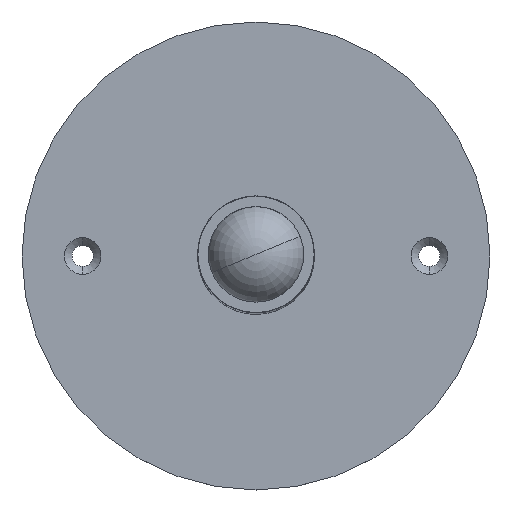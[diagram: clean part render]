
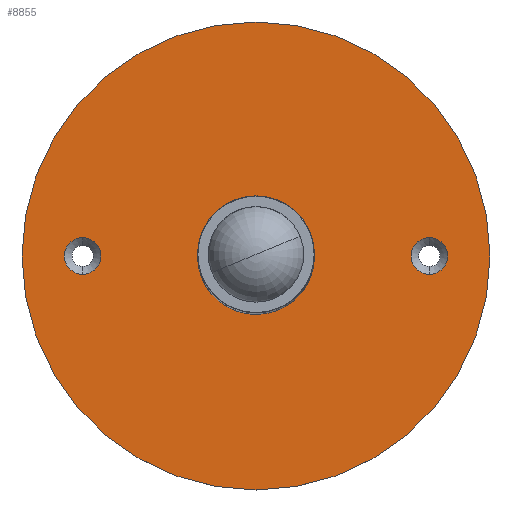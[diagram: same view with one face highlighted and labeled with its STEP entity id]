
A CAD part, top view. The second image highlights one B-rep face of the part: STEP entity #8855.
In plain terms, the highlighted planar face has unit normal (0, 0, 1) as drawn and (0, -1, 0) by its records, which use the part's own axes.
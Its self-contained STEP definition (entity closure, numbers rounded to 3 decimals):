
#510 = AXIS2_PLACEMENT_3D ( 'NONE', #840, #10138, #2656 ) ;
#642 = CARTESIAN_POINT ( 'NONE',  ( 0., -1., 0. ) ) ;
#783 = EDGE_CURVE ( 'NONE', #11089, #1516, #9873, .T. ) ;
#840 = CARTESIAN_POINT ( 'NONE',  ( 0., -1., 0. ) ) ;
#1018 = CARTESIAN_POINT ( 'NONE',  ( -44.45, -1., -4.7 ) ) ;
#1292 = EDGE_CURVE ( 'NONE', #7026, #3312, #11433, .T. ) ;
#1377 = AXIS2_PLACEMENT_3D ( 'NONE', #12110, #7953, #2563 ) ;
#1383 = DIRECTION ( 'NONE',  ( 0., 0., -1. ) ) ;
#1411 = CARTESIAN_POINT ( 'NONE',  ( 44.45, -1., 4.7 ) ) ;
#1516 = VERTEX_POINT ( 'NONE', #11976 ) ;
#1818 = VERTEX_POINT ( 'NONE', #1018 ) ;
#1884 = CARTESIAN_POINT ( 'NONE',  ( 0., -1., 60. ) ) ;
#1983 = VERTEX_POINT ( 'NONE', #1411 ) ;
#2004 = CIRCLE ( 'NONE', #3950, 4.7 ) ;
#2072 = AXIS2_PLACEMENT_3D ( 'NONE', #642, #6100, #13496 ) ;
#2367 = DIRECTION ( 'NONE',  ( 0., -1., 0. ) ) ;
#2563 = DIRECTION ( 'NONE',  ( 0., 0., -1. ) ) ;
#2656 = DIRECTION ( 'NONE',  ( 0., 0., -1. ) ) ;
#2836 = FACE_BOUND ( 'NONE', #4013, .T. ) ;
#2889 = EDGE_LOOP ( 'NONE', ( #12222, #9816 ) ) ;
#3136 = CIRCLE ( 'NONE', #8700, 4.7 ) ;
#3139 = CIRCLE ( 'NONE', #8054, 4.7 ) ;
#3203 = EDGE_CURVE ( 'NONE', #1818, #5268, #3136, .T. ) ;
#3265 = DIRECTION ( 'NONE',  ( 0., -1., 0. ) ) ;
#3312 = VERTEX_POINT ( 'NONE', #13161 ) ;
#3789 = ORIENTED_EDGE ( 'NONE', *, *, #9624, .F. ) ;
#3950 = AXIS2_PLACEMENT_3D ( 'NONE', #13112, #6705, #1383 ) ;
#3952 = DIRECTION ( 'NONE',  ( 0., 0., -1. ) ) ;
#4013 = EDGE_LOOP ( 'NONE', ( #4535, #11362 ) ) ;
#4275 = VERTEX_POINT ( 'NONE', #5623 ) ;
#4535 = ORIENTED_EDGE ( 'NONE', *, *, #12629, .T. ) ;
#4861 = ORIENTED_EDGE ( 'NONE', *, *, #7107, .F. ) ;
#5268 = VERTEX_POINT ( 'NONE', #13587 ) ;
#5623 = CARTESIAN_POINT ( 'NONE',  ( 44.45, -1., -4.7 ) ) ;
#6100 = DIRECTION ( 'NONE',  ( 0., 1., 0. ) ) ;
#6705 = DIRECTION ( 'NONE',  ( 0., -1., 0. ) ) ;
#6972 = DIRECTION ( 'NONE',  ( 0., 0., -1. ) ) ;
#7026 = VERTEX_POINT ( 'NONE', #9461 ) ;
#7030 = FACE_BOUND ( 'NONE', #2889, .T. ) ;
#7097 = DIRECTION ( 'NONE',  ( 0., -1., 0. ) ) ;
#7107 = EDGE_CURVE ( 'NONE', #1983, #4275, #3139, .T. ) ;
#7119 = ORIENTED_EDGE ( 'NONE', *, *, #10115, .F. ) ;
#7402 = AXIS2_PLACEMENT_3D ( 'NONE', #13363, #7097, #11336 ) ;
#7530 = DIRECTION ( 'NONE',  ( 0., 0., -1. ) ) ;
#7662 = CARTESIAN_POINT ( 'NONE',  ( -44.45, -1., 0. ) ) ;
#7942 = PLANE ( 'NONE',  #7402 ) ;
#7953 = DIRECTION ( 'NONE',  ( 0., 1., 0. ) ) ;
#8054 = AXIS2_PLACEMENT_3D ( 'NONE', #12655, #13506, #3952 ) ;
#8071 = FACE_BOUND ( 'NONE', #9798, .T. ) ;
#8095 = EDGE_LOOP ( 'NONE', ( #10002, #7119 ) ) ;
#8199 = CIRCLE ( 'NONE', #13531, 4.7 ) ;
#8700 = AXIS2_PLACEMENT_3D ( 'NONE', #7662, #3265, #7530 ) ;
#8792 = AXIS2_PLACEMENT_3D ( 'NONE', #11219, #12186, #6972 ) ;
#8855 = ADVANCED_FACE ( 'NONE', ( #8071, #7030, #2836, #9120 ), #7942, .T. ) ;
#8941 = DIRECTION ( 'NONE',  ( 0., 0., -1. ) ) ;
#9120 = FACE_OUTER_BOUND ( 'NONE', #8095, .T. ) ;
#9461 = CARTESIAN_POINT ( 'NONE',  ( 0., -1., -5.05 ) ) ;
#9624 = EDGE_CURVE ( 'NONE', #4275, #1983, #2004, .T. ) ;
#9741 = EDGE_CURVE ( 'NONE', #5268, #1818, #8199, .T. ) ;
#9798 = EDGE_LOOP ( 'NONE', ( #3789, #4861 ) ) ;
#9816 = ORIENTED_EDGE ( 'NONE', *, *, #9741, .F. ) ;
#9868 = CIRCLE ( 'NONE', #1377, 60. ) ;
#9873 = CIRCLE ( 'NONE', #2072, 60. ) ;
#10002 = ORIENTED_EDGE ( 'NONE', *, *, #783, .F. ) ;
#10115 = EDGE_CURVE ( 'NONE', #1516, #11089, #9868, .T. ) ;
#10138 = DIRECTION ( 'NONE',  ( 0., 1., 0. ) ) ;
#11089 = VERTEX_POINT ( 'NONE', #1884 ) ;
#11219 = CARTESIAN_POINT ( 'NONE',  ( 0., -1., 0. ) ) ;
#11336 = DIRECTION ( 'NONE',  ( 0., 0., -1. ) ) ;
#11362 = ORIENTED_EDGE ( 'NONE', *, *, #1292, .T. ) ;
#11433 = CIRCLE ( 'NONE', #510, 5.05 ) ;
#11976 = CARTESIAN_POINT ( 'NONE',  ( 0., -1., -60. ) ) ;
#12110 = CARTESIAN_POINT ( 'NONE',  ( 0., -1., 0. ) ) ;
#12186 = DIRECTION ( 'NONE',  ( 0., 1., 0. ) ) ;
#12222 = ORIENTED_EDGE ( 'NONE', *, *, #3203, .F. ) ;
#12629 = EDGE_CURVE ( 'NONE', #3312, #7026, #13242, .T. ) ;
#12655 = CARTESIAN_POINT ( 'NONE',  ( 44.45, -1., 0. ) ) ;
#13112 = CARTESIAN_POINT ( 'NONE',  ( 44.45, -1., 0. ) ) ;
#13161 = CARTESIAN_POINT ( 'NONE',  ( 0., -1., 5.05 ) ) ;
#13242 = CIRCLE ( 'NONE', #8792, 5.05 ) ;
#13258 = CARTESIAN_POINT ( 'NONE',  ( -44.45, -1., 0. ) ) ;
#13363 = CARTESIAN_POINT ( 'NONE',  ( 0., -1., 0. ) ) ;
#13496 = DIRECTION ( 'NONE',  ( 0., 0., -1. ) ) ;
#13506 = DIRECTION ( 'NONE',  ( 0., -1., 0. ) ) ;
#13531 = AXIS2_PLACEMENT_3D ( 'NONE', #13258, #2367, #8941 ) ;
#13587 = CARTESIAN_POINT ( 'NONE',  ( -44.45, -1., 4.7 ) ) ;
